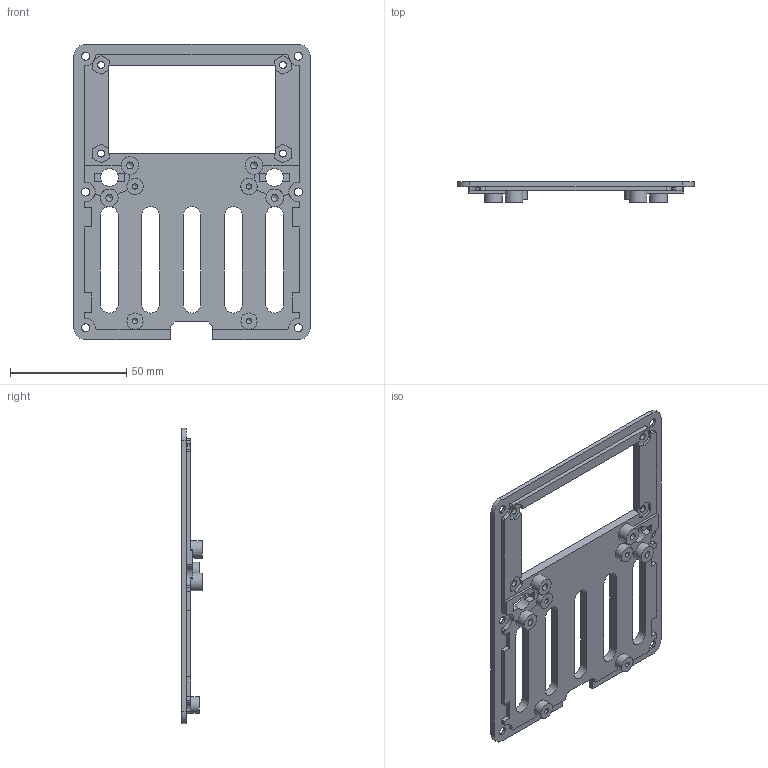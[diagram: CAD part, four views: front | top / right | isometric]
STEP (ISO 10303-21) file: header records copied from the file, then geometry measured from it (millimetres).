
FILE_DESCRIPTION (( 'STEP AP203' ), '1' );
FILE_NAME ('Rear.step', '2015-03-14T23:36:01', ( '' ), ( '' ), 'SwSTEP 2.0', 'SolidWorks 2013', '' );
FILE_SCHEMA (( 'CONFIG_CONTROL_DESIGN' ));
Length unit declared in the file: inch
Products named in the file (1): Rear
Bounding box: 101.6 x 8.81 x 127 mm (x, y, z)
Volume: 28330.1 mm3; surface area: 22649 mm2
Topology: 1 solids, 1 shells, 191 faces, 564 edges, 374 vertices
Faces by surface type: plane 113, cylinder 64, cone 14
Full cylindrical faces by diameter (mm): 2.261 x4, 2.946 x8, 3.454 x6, 6.985 x4, 7.62 x6
Entity records: 6093 total; most frequent: CARTESIAN_POINT 1036, DIRECTION 1036, ORIENTED_EDGE 992, EDGE_CURVE 496, AXIS2_PLACEMENT_3D 348, VERTEX_POINT 348, LINE 340, VECTOR 340
